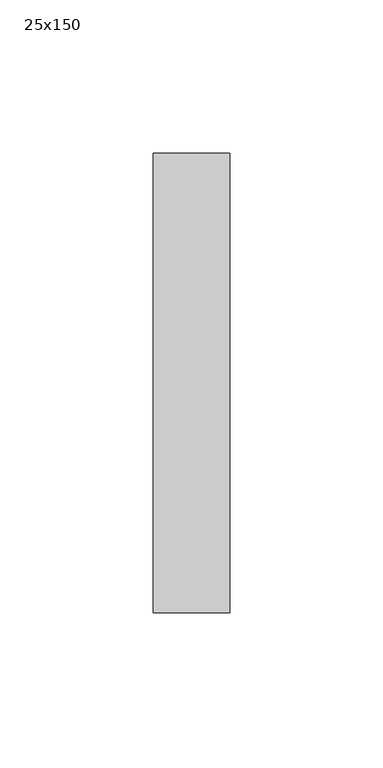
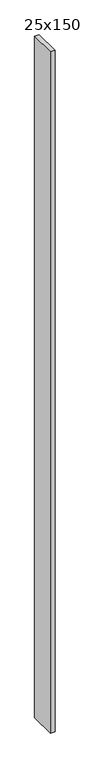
"""IFC4 building model written with IfcOpenShell, lengths in millimetres: member geometry, 長方形のマリオン : 25x150."""

from ifc_helpers import new_model, si_unit, frame, origin, place, context, project, spatial, polyline, outline, extrude, source, transform, mapped, element, save


def member_25x150_64c6ad17(model_context):
    return source(origin(), model_context, "Body", "SweptSolid", [
        extrude(outline(polyline([(0.0, 75.0), (0.0, -75.0), (-25.0, -75.0), (-25.0, 75.0), (0.0, 75.0)])), frame((0.0, 0.0, -3975.0), z_axis=(0.0, 0.0, 1.0), x_axis=(1.0, 0.0, 0.0)), (0.0, 0.0, 1.0), 3975.0),
    ])


if __name__ == "__main__":
    model = new_model("IFC4")
    model_context = context("Model", 3, world=origin())
    ifc_project = project(units=[si_unit("LENGTHUNIT", "METRE", prefix="MILLI")], contexts=[model_context])
    site = spatial("IfcSite", under=ifc_project)
    building = spatial("IfcBuilding", under=site)
    placement = place(None, origin())
    member_25x150_shape = member_25x150_64c6ad17(model_context)
    element("IfcMember", 1, ObjectType="長方形のマリオン : 25x150", at=placement, inside=building, context=model_context, shape_type="MappedRepresentation", body=[
        mapped(member_25x150_shape, transform((0.0, 0.0, 0.0), x_axis=(1.0, 0.0, 0.0), y_axis=(0.0, 1.0, 0.0), z_axis=(0.0, 0.0, 1.0))),
    ])
    save(model, "model.ifc")
